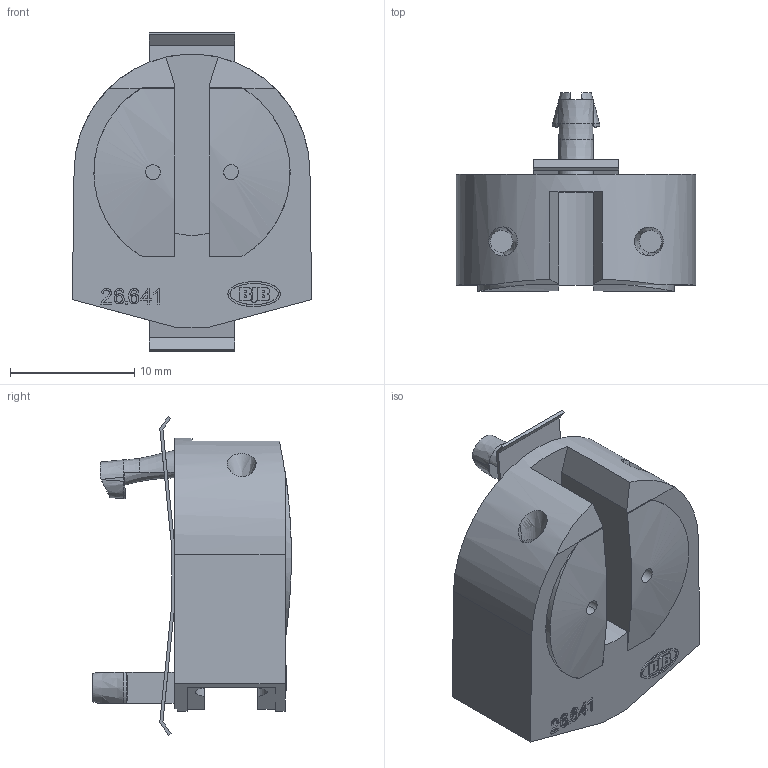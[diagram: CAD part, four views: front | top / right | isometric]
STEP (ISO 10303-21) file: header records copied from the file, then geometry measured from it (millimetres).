
FILE_DESCRIPTION((' '),'1');
FILE_NAME('00BYA0PY08.stp','2010-12-16 T10:05:30',(' '),(' '),'STEP Interface v1.0 by CT CoreTechnologie','3D_Evolution v1.0 by CT CoreTechnologie',' ');
FILE_SCHEMA(('CONFIG_CONTROL_DESIGN'));
Length unit declared in the file: millimetre
Products named in the file (1): 00BYA0PY08
Bounding box: 19.27 x 16 x 25.66 mm (x, y, z)
Volume: 2742.2 mm3; surface area: 2329.9 mm2
Topology: 1 solids, 1 shells, 271 faces, 733 edges, 490 vertices
Faces by surface type: plane 174, cylinder 70, bspline 27
Entity records: 12209 total; most frequent: CARTESIAN_POINT 2886, ORIENTED_EDGE 1466, DIRECTION 1363, EDGE_CURVE 733, VECTOR 521, LINE 521, VERTEX_POINT 490, AXIS2_PLACEMENT_3D 421
